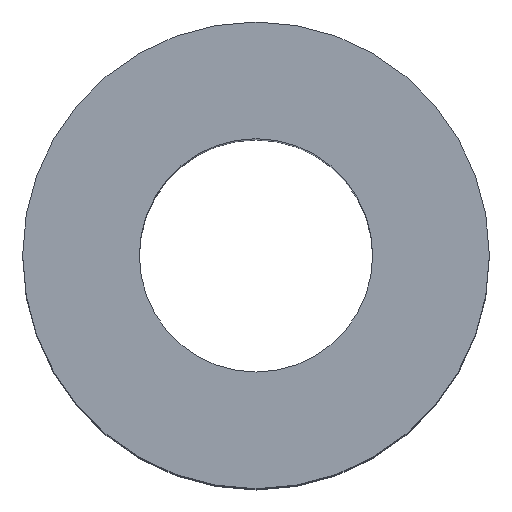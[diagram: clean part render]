
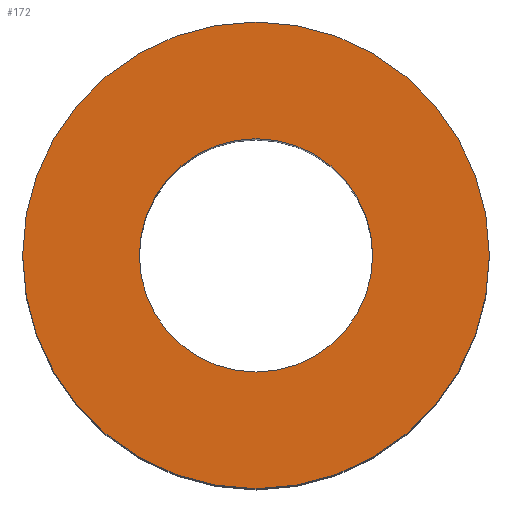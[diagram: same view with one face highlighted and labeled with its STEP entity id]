
A CAD part, top view. The second image highlights one B-rep face of the part: STEP entity #172.
In plain terms, the highlighted planar face has unit normal (0, 0, 1).
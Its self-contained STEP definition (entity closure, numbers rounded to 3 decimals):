
#133 = VERTEX_POINT('',#134);
#134 = CARTESIAN_POINT('',(-189.75,-100.,-0.65));
#140 = EDGE_CURVE('',#133,#133,#141,.T.);
#141 = CIRCLE('',#142,2.5);
#142 = AXIS2_PLACEMENT_3D('',#143,#144,#145);
#143 = CARTESIAN_POINT('',(-192.25,-100.,-0.65));
#144 = DIRECTION('',(0.,0.,1.));
#145 = DIRECTION('',(1.,0.,-0.));
#172 = ADVANCED_FACE('',(#173,#176),#187,.T.);
#173 = FACE_BOUND('',#174,.T.);
#174 = EDGE_LOOP('',(#175));
#175 = ORIENTED_EDGE('',*,*,#140,.T.);
#176 = FACE_BOUND('',#177,.T.);
#177 = EDGE_LOOP('',(#178));
#178 = ORIENTED_EDGE('',*,*,#179,.F.);
#179 = EDGE_CURVE('',#180,#180,#182,.T.);
#180 = VERTEX_POINT('',#181);
#181 = CARTESIAN_POINT('',(-191.,-100.,-0.65));
#182 = CIRCLE('',#183,1.25);
#183 = AXIS2_PLACEMENT_3D('',#184,#185,#186);
#184 = CARTESIAN_POINT('',(-192.25,-100.,-0.65));
#185 = DIRECTION('',(0.,0.,1.));
#186 = DIRECTION('',(1.,0.,-0.));
#187 = PLANE('',#188);
#188 = AXIS2_PLACEMENT_3D('',#189,#190,#191);
#189 = CARTESIAN_POINT('',(-192.25,-100.,-0.65));
#190 = DIRECTION('',(0.,0.,1.));
#191 = DIRECTION('',(1.,0.,-0.));
